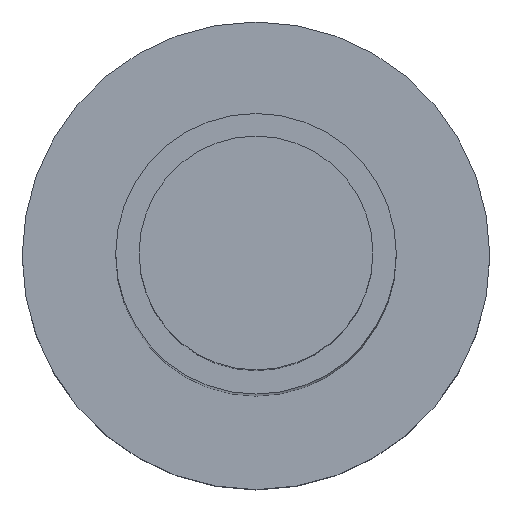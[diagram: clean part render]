
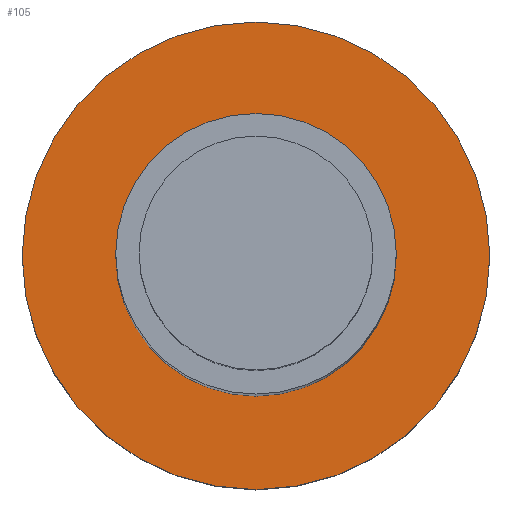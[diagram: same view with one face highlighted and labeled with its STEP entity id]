
A CAD part, top view. The second image highlights one B-rep face of the part: STEP entity #105.
In plain terms, the highlighted planar face has unit normal (0, 0, 1).
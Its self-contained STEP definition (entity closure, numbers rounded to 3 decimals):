
#21 = EDGE_CURVE('',#22,#22,#24,.T.);
#22 = VERTEX_POINT('',#23);
#23 = CARTESIAN_POINT('',(5.,0.,0.));
#24 = SURFACE_CURVE('',#25,(#30,#42),.PCURVE_S1.);
#25 = CIRCLE('',#26,5.);
#26 = AXIS2_PLACEMENT_3D('',#27,#28,#29);
#27 = CARTESIAN_POINT('',(0.,0.,0.));
#28 = DIRECTION('',(0.,0.,1.));
#29 = DIRECTION('',(1.,0.,-0.));
#30 = PCURVE('',#31,#36);
#31 = CYLINDRICAL_SURFACE('',#32,5.);
#32 = AXIS2_PLACEMENT_3D('',#33,#34,#35);
#33 = CARTESIAN_POINT('',(0.,0.,-4.5));
#34 = DIRECTION('',(0.,0.,1.));
#35 = DIRECTION('',(1.,0.,-0.));
#36 = DEFINITIONAL_REPRESENTATION('',(#37),#41);
#37 = LINE('',#38,#39);
#38 = CARTESIAN_POINT('',(0.,4.5));
#39 = VECTOR('',#40,1.);
#40 = DIRECTION('',(1.,0.));
#41 = ( GEOMETRIC_REPRESENTATION_CONTEXT(2) 
PARAMETRIC_REPRESENTATION_CONTEXT() REPRESENTATION_CONTEXT('2D SPACE',''
  ) );
#42 = PCURVE('',#43,#48);
#43 = PLANE('',#44);
#44 = AXIS2_PLACEMENT_3D('',#45,#46,#47);
#45 = CARTESIAN_POINT('',(0.,0.,0.));
#46 = DIRECTION('',(0.,0.,1.));
#47 = DIRECTION('',(1.,0.,-0.));
#48 = DEFINITIONAL_REPRESENTATION('',(#49),#53);
#49 = CIRCLE('',#50,5.);
#50 = AXIS2_PLACEMENT_2D('',#51,#52);
#51 = CARTESIAN_POINT('',(0.,0.));
#52 = DIRECTION('',(1.,0.));
#53 = ( GEOMETRIC_REPRESENTATION_CONTEXT(2) 
PARAMETRIC_REPRESENTATION_CONTEXT() REPRESENTATION_CONTEXT('2D SPACE',''
  ) );
#105 = ADVANCED_FACE('',(#106,#109),#43,.T.);
#106 = FACE_BOUND('',#107,.T.);
#107 = EDGE_LOOP('',(#108));
#108 = ORIENTED_EDGE('',*,*,#21,.T.);
#109 = FACE_BOUND('',#110,.T.);
#110 = EDGE_LOOP('',(#111));
#111 = ORIENTED_EDGE('',*,*,#112,.F.);
#112 = EDGE_CURVE('',#113,#113,#115,.T.);
#113 = VERTEX_POINT('',#114);
#114 = CARTESIAN_POINT('',(3.,0.,0.));
#115 = SURFACE_CURVE('',#116,(#121,#128),.PCURVE_S1.);
#116 = CIRCLE('',#117,3.);
#117 = AXIS2_PLACEMENT_3D('',#118,#119,#120);
#118 = CARTESIAN_POINT('',(0.,0.,0.));
#119 = DIRECTION('',(0.,0.,1.));
#120 = DIRECTION('',(1.,0.,-0.));
#121 = PCURVE('',#43,#122);
#122 = DEFINITIONAL_REPRESENTATION('',(#123),#127);
#123 = CIRCLE('',#124,3.);
#124 = AXIS2_PLACEMENT_2D('',#125,#126);
#125 = CARTESIAN_POINT('',(0.,0.));
#126 = DIRECTION('',(1.,0.));
#127 = ( GEOMETRIC_REPRESENTATION_CONTEXT(2) 
PARAMETRIC_REPRESENTATION_CONTEXT() REPRESENTATION_CONTEXT('2D SPACE',''
  ) );
#128 = PCURVE('',#129,#134);
#129 = CYLINDRICAL_SURFACE('',#130,3.);
#130 = AXIS2_PLACEMENT_3D('',#131,#132,#133);
#131 = CARTESIAN_POINT('',(0.,0.,0.));
#132 = DIRECTION('',(0.,0.,1.));
#133 = DIRECTION('',(1.,0.,-0.));
#134 = DEFINITIONAL_REPRESENTATION('',(#135),#139);
#135 = LINE('',#136,#137);
#136 = CARTESIAN_POINT('',(0.,0.));
#137 = VECTOR('',#138,1.);
#138 = DIRECTION('',(1.,0.));
#139 = ( GEOMETRIC_REPRESENTATION_CONTEXT(2) 
PARAMETRIC_REPRESENTATION_CONTEXT() REPRESENTATION_CONTEXT('2D SPACE',''
  ) );
